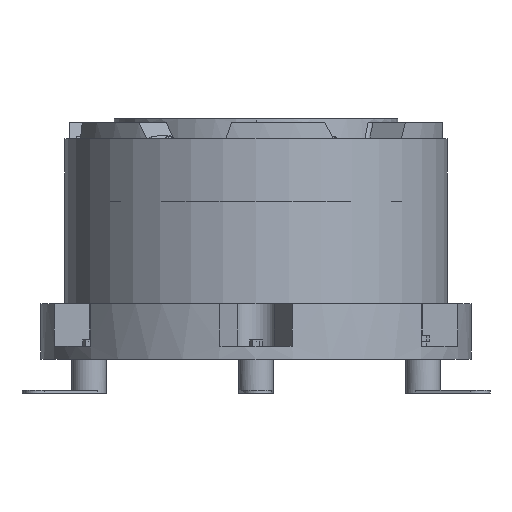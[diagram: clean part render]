
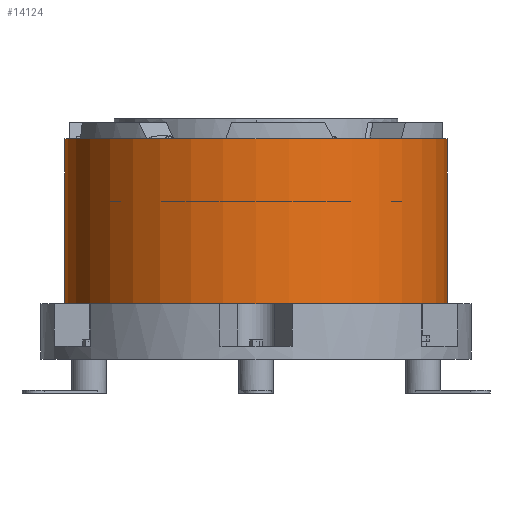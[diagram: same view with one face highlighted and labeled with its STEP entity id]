
A CAD part, front view. The second image highlights one B-rep face of the part: STEP entity #14124.
In plain terms, the highlighted cylindrical face has radius 224 mm (diameter 448 mm), a partial arc.
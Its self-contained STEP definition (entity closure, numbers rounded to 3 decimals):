
#735 = DIRECTION ( 'NONE',  ( 0., 0., -1. ) ) ;
#940 = CARTESIAN_POINT ( 'NONE',  ( -182.909, 131.917, -163.49 ) ) ;
#1301 = AXIS2_PLACEMENT_3D ( 'NONE', #21806, #15891, #35841 ) ;
#1437 = FACE_OUTER_BOUND ( 'NONE', #6701, .T. ) ;
#1439 = ORIENTED_EDGE ( 'NONE', *, *, #22954, .T. ) ;
#1847 = VERTEX_POINT ( 'NONE', #35596 ) ;
#3862 = CARTESIAN_POINT ( 'NONE',  ( -630.909, 131.917, -163.49 ) ) ;
#6701 = EDGE_LOOP ( 'NONE', ( #42234, #31628, #1439, #10078 ) ) ;
#7204 = DIRECTION ( 'NONE',  ( 1., 0., 0. ) ) ;
#8406 = AXIS2_PLACEMENT_3D ( 'NONE', #17646, #735, #7204 ) ;
#10078 = ORIENTED_EDGE ( 'NONE', *, *, #15723, .T. ) ;
#13267 = CIRCLE ( 'NONE', #8406, 224. ) ;
#14124 = ADVANCED_FACE ( 'NONE', ( #1437 ), #41565, .T. ) ;
#14143 = DIRECTION ( 'NONE',  ( 0., 0., 1. ) ) ;
#14570 = VERTEX_POINT ( 'NONE', #20341 ) ;
#14598 = VECTOR ( 'NONE', #14143, 1000. ) ;
#15723 = EDGE_CURVE ( 'NONE', #14570, #30175, #13267, .T. ) ;
#15891 = DIRECTION ( 'NONE',  ( 0., 0., 1. ) ) ;
#17646 = CARTESIAN_POINT ( 'NONE',  ( -406.909, 131.917, 29.51 ) ) ;
#20341 = CARTESIAN_POINT ( 'NONE',  ( -182.909, 131.917, 29.51 ) ) ;
#21021 = LINE ( 'NONE', #31191, #41081 ) ;
#21806 = CARTESIAN_POINT ( 'NONE',  ( -406.909, 131.917, -163.49 ) ) ;
#21867 = CARTESIAN_POINT ( 'NONE',  ( -406.909, 131.917, -163.49 ) ) ;
#22616 = EDGE_CURVE ( 'NONE', #40675, #1847, #41635, .T. ) ;
#22834 = CARTESIAN_POINT ( 'NONE',  ( -630.909, 131.917, 29.51 ) ) ;
#22907 = AXIS2_PLACEMENT_3D ( 'NONE', #21867, #41416, #41628 ) ;
#22954 = EDGE_CURVE ( 'NONE', #1847, #14570, #33878, .T. ) ;
#30175 = VERTEX_POINT ( 'NONE', #22834 ) ;
#31191 = CARTESIAN_POINT ( 'NONE',  ( -630.909, 131.917, -163.49 ) ) ;
#31628 = ORIENTED_EDGE ( 'NONE', *, *, #22616, .T. ) ;
#31992 = EDGE_CURVE ( 'NONE', #40675, #30175, #21021, .T. ) ;
#33878 = LINE ( 'NONE', #940, #14598 ) ;
#35596 = CARTESIAN_POINT ( 'NONE',  ( -182.909, 131.917, -163.49 ) ) ;
#35841 = DIRECTION ( 'NONE',  ( 1., 0., 0. ) ) ;
#37954 = DIRECTION ( 'NONE',  ( 0., 0., 1. ) ) ;
#40675 = VERTEX_POINT ( 'NONE', #3862 ) ;
#41081 = VECTOR ( 'NONE', #37954, 1000. ) ;
#41416 = DIRECTION ( 'NONE',  ( 0., 0., 1. ) ) ;
#41565 = CYLINDRICAL_SURFACE ( 'NONE', #1301, 224. ) ;
#41628 = DIRECTION ( 'NONE',  ( 1., 0., 0. ) ) ;
#41635 = CIRCLE ( 'NONE', #22907, 224. ) ;
#42234 = ORIENTED_EDGE ( 'NONE', *, *, #31992, .F. ) ;
